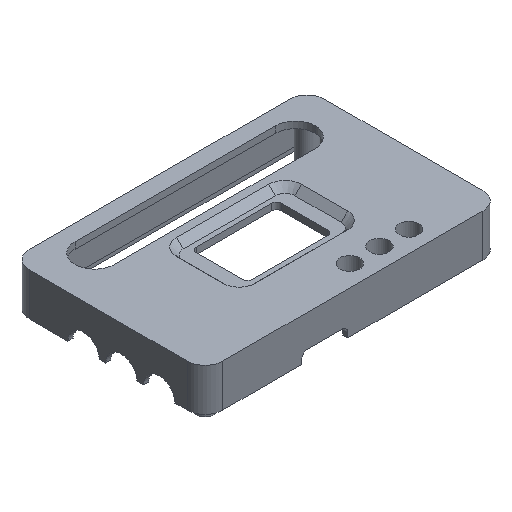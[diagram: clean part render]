
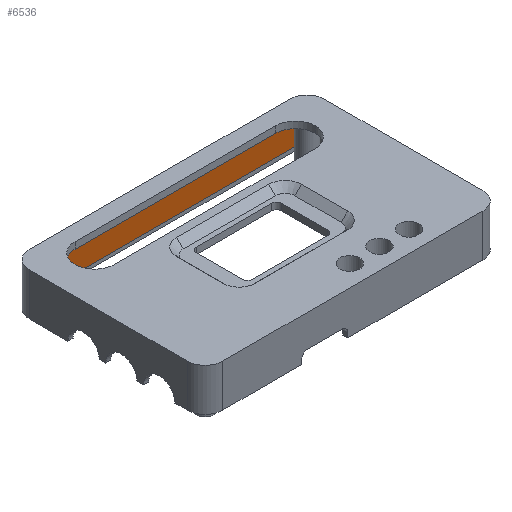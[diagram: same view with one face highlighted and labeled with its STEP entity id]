
A CAD part, isometric view. The second image highlights one B-rep face of the part: STEP entity #6536.
In plain terms, the highlighted planar face has unit normal (0, -1, 0).
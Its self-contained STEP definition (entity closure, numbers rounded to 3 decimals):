
#1432 = PLANE('',#1433);
#1433 = AXIS2_PLACEMENT_3D('',#1434,#1435,#1436);
#1434 = CARTESIAN_POINT('',(-0.85,-0.85,11.65));
#1435 = DIRECTION('',(0.,0.,1.));
#1436 = DIRECTION('',(1.,0.,0.));
#3224 = PLANE('',#3225);
#3225 = AXIS2_PLACEMENT_3D('',#3226,#3227,#3228);
#3226 = CARTESIAN_POINT('',(-0.4,-0.4,21.));
#3227 = DIRECTION('',(0.,0.,1.));
#3228 = DIRECTION('',(1.,0.,0.));
#4153 = CYLINDRICAL_SURFACE('',#4154,3.4);
#4154 = AXIS2_PLACEMENT_3D('',#4155,#4156,#4157);
#4155 = CARTESIAN_POINT('',(3.,51.,10.));
#4156 = DIRECTION('',(0.,0.,1.));
#4157 = DIRECTION('',(-1.,-0.,0.));
#4172 = VERTEX_POINT('',#4173);
#4173 = CARTESIAN_POINT('',(3.,54.4,11.65));
#4195 = EDGE_CURVE('',#4172,#4196,#4198,.T.);
#4196 = VERTEX_POINT('',#4197);
#4197 = CARTESIAN_POINT('',(82.,54.4,11.65));
#4198 = SURFACE_CURVE('',#4199,(#4203,#4209),.PCURVE_S1.);
#4199 = LINE('',#4200,#4201);
#4200 = CARTESIAN_POINT('',(-0.625,54.4,11.65));
#4201 = VECTOR('',#4202,1.);
#4202 = DIRECTION('',(1.,0.,0.));
#4203 = PCURVE('',#1432,#4204);
#4204 = DEFINITIONAL_REPRESENTATION('',(#4205),#4208);
#4205 = B_SPLINE_CURVE_WITH_KNOTS('',1,(#4206,#4207),.UNSPECIFIED.,.F.,
  .F.,(2,2),(3.625,82.625),.PIECEWISE_BEZIER_KNOTS.);
#4206 = CARTESIAN_POINT('',(3.85,55.25));
#4207 = CARTESIAN_POINT('',(82.85,55.25));
#4208 = ( GEOMETRIC_REPRESENTATION_CONTEXT(2) 
PARAMETRIC_REPRESENTATION_CONTEXT() REPRESENTATION_CONTEXT('2D SPACE',''
  ) );
#4209 = PCURVE('',#4210,#4215);
#4210 = PLANE('',#4211);
#4211 = AXIS2_PLACEMENT_3D('',#4212,#4213,#4214);
#4212 = CARTESIAN_POINT('',(-0.4,54.4,10.));
#4213 = DIRECTION('',(0.,1.,0.));
#4214 = DIRECTION('',(0.,0.,1.));
#4215 = DEFINITIONAL_REPRESENTATION('',(#4216),#4219);
#4216 = B_SPLINE_CURVE_WITH_KNOTS('',1,(#4217,#4218),.UNSPECIFIED.,.F.,
  .F.,(2,2),(3.625,82.625),.PIECEWISE_BEZIER_KNOTS.);
#4217 = CARTESIAN_POINT('',(1.65,3.4));
#4218 = CARTESIAN_POINT('',(1.65,82.4));
#4219 = ( GEOMETRIC_REPRESENTATION_CONTEXT(2) 
PARAMETRIC_REPRESENTATION_CONTEXT() REPRESENTATION_CONTEXT('2D SPACE',''
  ) );
#4238 = CYLINDRICAL_SURFACE('',#4239,3.4);
#4239 = AXIS2_PLACEMENT_3D('',#4240,#4241,#4242);
#4240 = CARTESIAN_POINT('',(82.,51.,10.));
#4241 = DIRECTION('',(0.,0.,1.));
#4242 = DIRECTION('',(1.,0.,-0.));
#5779 = VERTEX_POINT('',#5780);
#5780 = CARTESIAN_POINT('',(82.,54.4,21.));
#5802 = EDGE_CURVE('',#5803,#5779,#5805,.T.);
#5803 = VERTEX_POINT('',#5804);
#5804 = CARTESIAN_POINT('',(3.,54.4,21.));
#5805 = SURFACE_CURVE('',#5806,(#5810,#5817),.PCURVE_S1.);
#5806 = LINE('',#5807,#5808);
#5807 = CARTESIAN_POINT('',(-0.4,54.4,21.));
#5808 = VECTOR('',#5809,1.);
#5809 = DIRECTION('',(1.,0.,0.));
#5810 = PCURVE('',#3224,#5811);
#5811 = DEFINITIONAL_REPRESENTATION('',(#5812),#5816);
#5812 = LINE('',#5813,#5814);
#5813 = CARTESIAN_POINT('',(0.,54.8));
#5814 = VECTOR('',#5815,1.);
#5815 = DIRECTION('',(1.,0.));
#5816 = ( GEOMETRIC_REPRESENTATION_CONTEXT(2) 
PARAMETRIC_REPRESENTATION_CONTEXT() REPRESENTATION_CONTEXT('2D SPACE',''
  ) );
#5817 = PCURVE('',#4210,#5818);
#5818 = DEFINITIONAL_REPRESENTATION('',(#5819),#5823);
#5819 = LINE('',#5820,#5821);
#5820 = CARTESIAN_POINT('',(11.,0.));
#5821 = VECTOR('',#5822,1.);
#5822 = DIRECTION('',(0.,1.));
#5823 = ( GEOMETRIC_REPRESENTATION_CONTEXT(2) 
PARAMETRIC_REPRESENTATION_CONTEXT() REPRESENTATION_CONTEXT('2D SPACE',''
  ) );
#6461 = EDGE_CURVE('',#4172,#5803,#6462,.T.);
#6462 = SURFACE_CURVE('',#6463,(#6467,#6474),.PCURVE_S1.);
#6463 = LINE('',#6464,#6465);
#6464 = CARTESIAN_POINT('',(3.,54.4,10.));
#6465 = VECTOR('',#6466,1.);
#6466 = DIRECTION('',(0.,0.,1.));
#6467 = PCURVE('',#4153,#6468);
#6468 = DEFINITIONAL_REPRESENTATION('',(#6469),#6473);
#6469 = LINE('',#6470,#6471);
#6470 = CARTESIAN_POINT('',(-1.571,0.));
#6471 = VECTOR('',#6472,1.);
#6472 = DIRECTION('',(-0.,1.));
#6473 = ( GEOMETRIC_REPRESENTATION_CONTEXT(2) 
PARAMETRIC_REPRESENTATION_CONTEXT() REPRESENTATION_CONTEXT('2D SPACE',''
  ) );
#6474 = PCURVE('',#4210,#6475);
#6475 = DEFINITIONAL_REPRESENTATION('',(#6476),#6480);
#6476 = LINE('',#6477,#6478);
#6477 = CARTESIAN_POINT('',(0.,3.4));
#6478 = VECTOR('',#6479,1.);
#6479 = DIRECTION('',(1.,0.));
#6480 = ( GEOMETRIC_REPRESENTATION_CONTEXT(2) 
PARAMETRIC_REPRESENTATION_CONTEXT() REPRESENTATION_CONTEXT('2D SPACE',''
  ) );
#6515 = EDGE_CURVE('',#4196,#5779,#6516,.T.);
#6516 = SURFACE_CURVE('',#6517,(#6521,#6528),.PCURVE_S1.);
#6517 = LINE('',#6518,#6519);
#6518 = CARTESIAN_POINT('',(82.,54.4,10.));
#6519 = VECTOR('',#6520,1.);
#6520 = DIRECTION('',(0.,0.,1.));
#6521 = PCURVE('',#4238,#6522);
#6522 = DEFINITIONAL_REPRESENTATION('',(#6523),#6527);
#6523 = LINE('',#6524,#6525);
#6524 = CARTESIAN_POINT('',(1.571,0.));
#6525 = VECTOR('',#6526,1.);
#6526 = DIRECTION('',(0.,1.));
#6527 = ( GEOMETRIC_REPRESENTATION_CONTEXT(2) 
PARAMETRIC_REPRESENTATION_CONTEXT() REPRESENTATION_CONTEXT('2D SPACE',''
  ) );
#6528 = PCURVE('',#4210,#6529);
#6529 = DEFINITIONAL_REPRESENTATION('',(#6530),#6534);
#6530 = LINE('',#6531,#6532);
#6531 = CARTESIAN_POINT('',(0.,82.4));
#6532 = VECTOR('',#6533,1.);
#6533 = DIRECTION('',(1.,0.));
#6534 = ( GEOMETRIC_REPRESENTATION_CONTEXT(2) 
PARAMETRIC_REPRESENTATION_CONTEXT() REPRESENTATION_CONTEXT('2D SPACE',''
  ) );
#6536 = ADVANCED_FACE('',(#6537),#4210,.F.);
#6537 = FACE_BOUND('',#6538,.F.);
#6538 = EDGE_LOOP('',(#6539,#6540,#6541,#6542));
#6539 = ORIENTED_EDGE('',*,*,#6515,.F.);
#6540 = ORIENTED_EDGE('',*,*,#4195,.F.);
#6541 = ORIENTED_EDGE('',*,*,#6461,.T.);
#6542 = ORIENTED_EDGE('',*,*,#5802,.T.);
